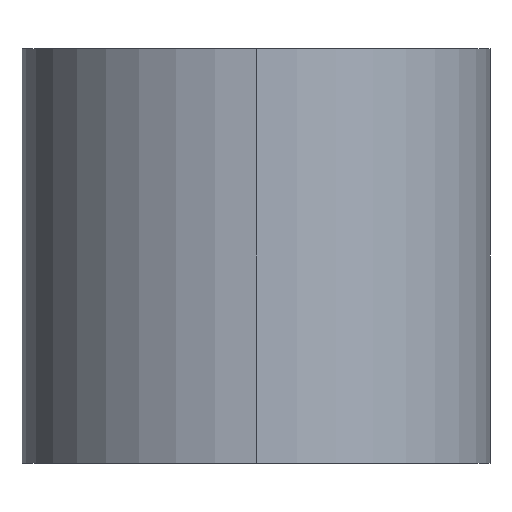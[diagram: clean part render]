
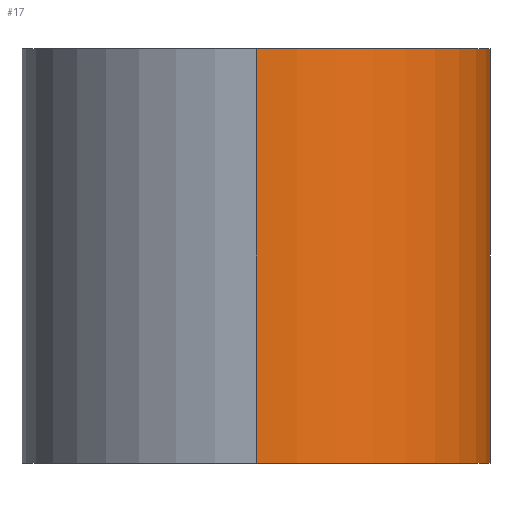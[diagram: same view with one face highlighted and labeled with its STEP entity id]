
A CAD part, front view. The second image highlights one B-rep face of the part: STEP entity #17.
In plain terms, the highlighted cylindrical face has radius 48 mm (diameter 96 mm), a partial arc.
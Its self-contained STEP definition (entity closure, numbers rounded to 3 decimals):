
#17 = ADVANCED_FACE('',(#18),#54,.T.);
#18 = FACE_BOUND('',#19,.T.);
#19 = EDGE_LOOP('',(#20,#30,#39,#47));
#20 = ORIENTED_EDGE('',*,*,#21,.T.);
#21 = EDGE_CURVE('',#22,#24,#26,.T.);
#22 = VERTEX_POINT('',#23);
#23 = CARTESIAN_POINT('',(48.,0.,0.));
#24 = VERTEX_POINT('',#25);
#25 = CARTESIAN_POINT('',(48.,0.,85.));
#26 = LINE('',#27,#28);
#27 = CARTESIAN_POINT('',(48.,0.,0.));
#28 = VECTOR('',#29,1.);
#29 = DIRECTION('',(0.,0.,1.));
#30 = ORIENTED_EDGE('',*,*,#31,.T.);
#31 = EDGE_CURVE('',#24,#32,#34,.T.);
#32 = VERTEX_POINT('',#33);
#33 = CARTESIAN_POINT('',(0.,-48.,85.));
#34 = CIRCLE('',#35,48.);
#35 = AXIS2_PLACEMENT_3D('',#36,#37,#38);
#36 = CARTESIAN_POINT('',(0.,0.,85.));
#37 = DIRECTION('',(0.,0.,-1.));
#38 = DIRECTION('',(1.,0.,0.));
#39 = ORIENTED_EDGE('',*,*,#40,.F.);
#40 = EDGE_CURVE('',#41,#32,#43,.T.);
#41 = VERTEX_POINT('',#42);
#42 = CARTESIAN_POINT('',(0.,-48.,0.));
#43 = LINE('',#44,#45);
#44 = CARTESIAN_POINT('',(0.,-48.,0.));
#45 = VECTOR('',#46,1.);
#46 = DIRECTION('',(0.,0.,1.));
#47 = ORIENTED_EDGE('',*,*,#48,.F.);
#48 = EDGE_CURVE('',#22,#41,#49,.T.);
#49 = CIRCLE('',#50,48.);
#50 = AXIS2_PLACEMENT_3D('',#51,#52,#53);
#51 = CARTESIAN_POINT('',(0.,0.,0.));
#52 = DIRECTION('',(0.,0.,-1.));
#53 = DIRECTION('',(1.,0.,0.));
#54 = CYLINDRICAL_SURFACE('',#55,48.);
#55 = AXIS2_PLACEMENT_3D('',#56,#57,#58);
#56 = CARTESIAN_POINT('',(0.,0.,0.));
#57 = DIRECTION('',(0.,0.,-1.));
#58 = DIRECTION('',(1.,0.,0.));
